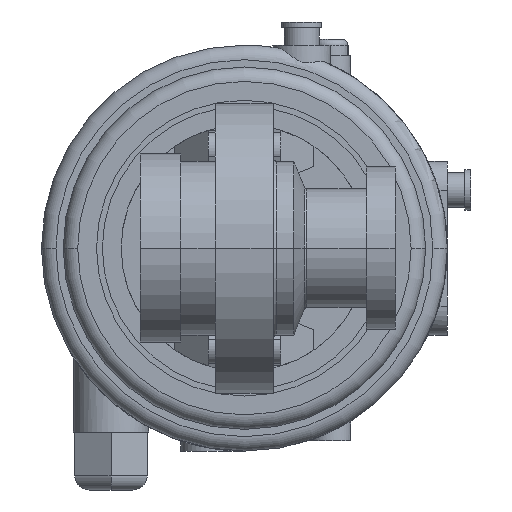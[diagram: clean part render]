
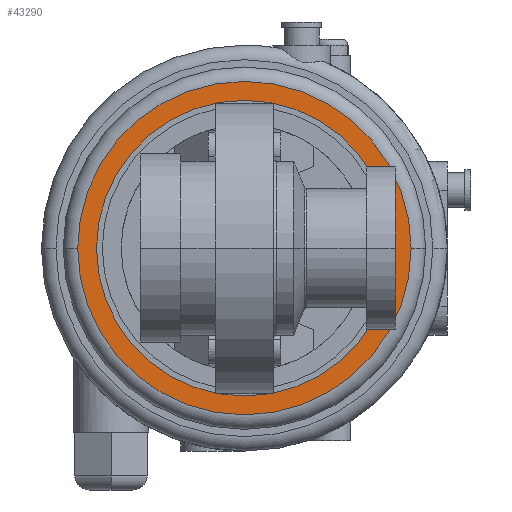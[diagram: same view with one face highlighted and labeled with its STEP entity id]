
A CAD part, front view. The second image highlights one B-rep face of the part: STEP entity #43290.
In plain terms, the highlighted planar face has unit normal (0, -1, 0).
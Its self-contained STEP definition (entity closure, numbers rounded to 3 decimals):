
#41870=CARTESIAN_POINT('',(51.,6.224,0.));
#41880=VERTEX_POINT('',#41870);
#42040=CARTESIAN_POINT('',(-51.,6.224,0.));
#42050=VERTEX_POINT('',#42040);
#42080=CARTESIAN_POINT('',(0.,6.224,0.));
#42090=DIRECTION('',(0.,1.,0.));
#42100=DIRECTION('',(-1.,0.,0.));
#42110=AXIS2_PLACEMENT_3D('',#42080,#42090,#42100);
#42120=CIRCLE('',#42110,51.);
#42130=EDGE_CURVE('',#42050,#41880,#42120,.T.);
#42300=CARTESIAN_POINT('',(57.5,6.224,0.));
#42310=VERTEX_POINT('',#42300);
#42340=CARTESIAN_POINT('',(0.,6.224,0.));
#42350=DIRECTION('',(0.,1.,0.));
#42360=DIRECTION('',(0.,0.,1.));
#42370=AXIS2_PLACEMENT_3D('',#42340,#42350,#42360);
#42380=CIRCLE('',#42370,57.5);
#42390=CARTESIAN_POINT('',(-57.5,6.224,0.));
#42400=VERTEX_POINT('',#42390);
#42410=EDGE_CURVE('',#42400,#42310,#42380,.T.);
#43140=CARTESIAN_POINT('',(0.,6.224,0.));
#43150=DIRECTION('',(0.,1.,0.));
#43160=DIRECTION('',(0.,0.,1.));
#43170=AXIS2_PLACEMENT_3D('',#43140,#43150,#43160);
#43180=PLANE('',#43170);
#43190=EDGE_CURVE('',#41880,#42050,#42120,.T.);
#43200=ORIENTED_EDGE('',*,*,#43190,.T.);
#43210=ORIENTED_EDGE('',*,*,#42130,.T.);
#43220=EDGE_LOOP('',(#43210,#43200));
#43230=FACE_BOUND('',#43220,.T.);
#43240=ORIENTED_EDGE('',*,*,#42410,.F.);
#43250=EDGE_CURVE('',#42310,#42400,#42380,.T.);
#43260=ORIENTED_EDGE('',*,*,#43250,.F.);
#43270=EDGE_LOOP('',(#43260,#43240));
#43280=FACE_OUTER_BOUND('',#43270,.T.);
#43290=ADVANCED_FACE('',(#43230,#43280),#43180,.F.);
